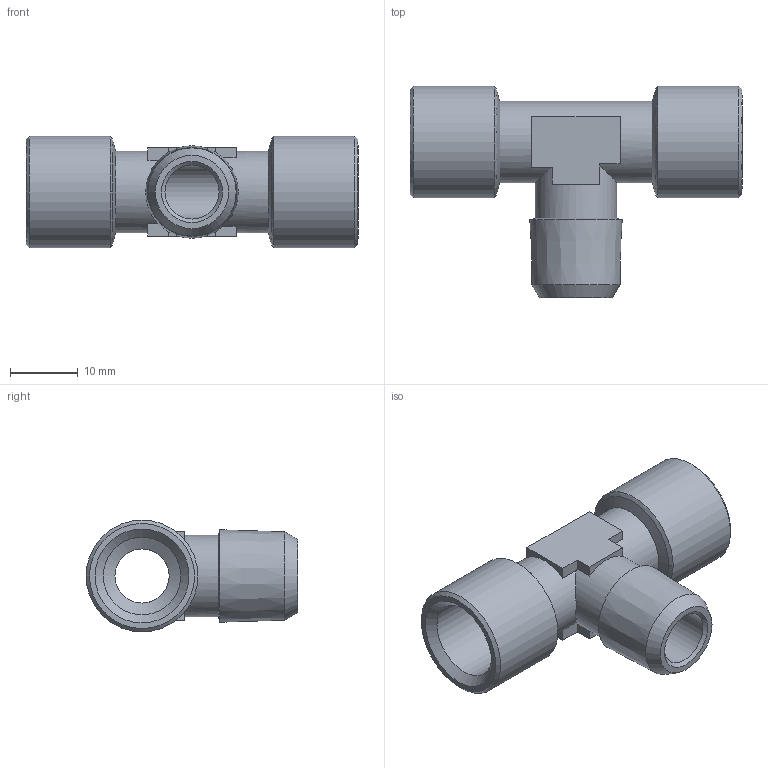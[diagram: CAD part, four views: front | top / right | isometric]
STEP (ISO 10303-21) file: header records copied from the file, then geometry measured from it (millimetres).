
FILE_DESCRIPTION (( 'STEP AP214' ), '1' );
FILE_NAME ('0404000010300A.STEP', '2013-08-07T15:05:44', ( 'ST01' ), ( '' ), 'SwSTEP 2.0', 'SolidWorks 2012', '' );
FILE_SCHEMA (( 'AUTOMOTIVE_DESIGN' ));
Length unit declared in the file: millimetre
Products named in the file (1): 0404000010300A
Bounding box: 49 x 31.25 x 16.5 mm (x, y, z)
Volume: 5888.7 mm3; surface area: 5290.7 mm2
Topology: 1 solids, 1 shells, 45 faces, 116 edges, 73 vertices
Faces by surface type: plane 21, cone 12, cylinder 8, bspline 4
Full cylindrical faces by diameter (mm): 8 x2, 11.445 x2, 12 x2, 16.5 x2
Entity records: 1285 total; most frequent: CARTESIAN_POINT 287, DIRECTION 202, ORIENTED_EDGE 176, EDGE_CURVE 88, AXIS2_PLACEMENT_3D 80, EDGE_LOOP 70, VERTEX_POINT 66, FACE_OUTER_BOUND 53
